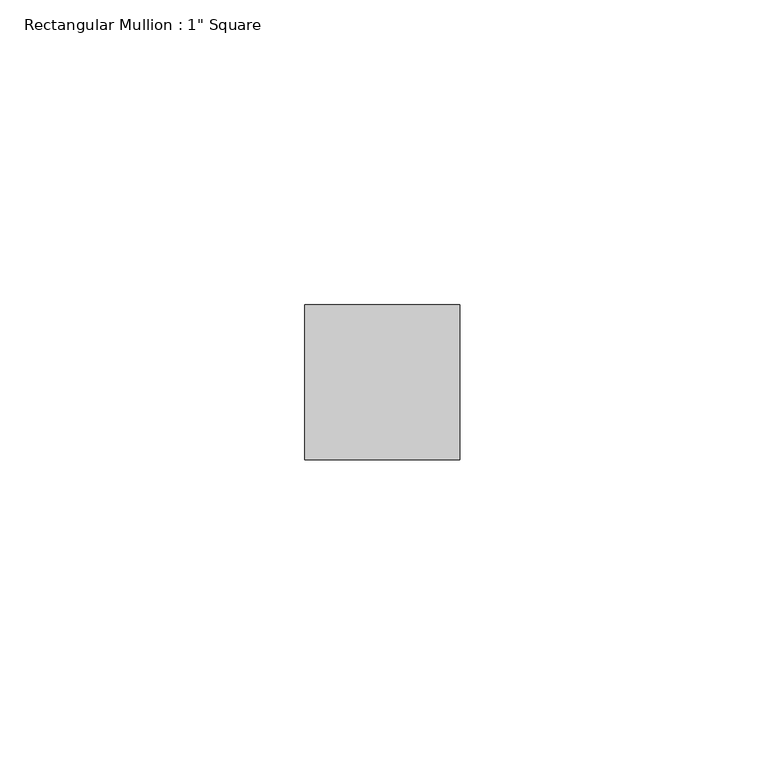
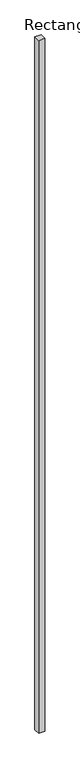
"""IFC4 building model written with IfcOpenShell, lengths in millimetres: member geometry."""

from ifc_helpers import new_model, si_unit, frame, origin, place, context, project, spatial, polyline, outline, extrude, source, transform, mapped, element, save


def member_4177733f(model_context):
    return source(origin(), model_context, "Body", "SweptSolid", [
        extrude(outline(polyline([(0.0, 12.7), (0.0, -12.7), (-25.4, -12.7), (-25.4, 12.7), (0.0, 12.7)])), frame((0.0, 0.0, -2979.266061), z_axis=(0.0, 0.0, 1.0), x_axis=(1.0, 0.0, 0.0)), (0.0, 0.0, 1.0), 2979.266061),
    ])


if __name__ == "__main__":
    model = new_model("IFC4")
    model_context = context("Model", 3, world=origin())
    ifc_project = project(units=[si_unit("LENGTHUNIT", "METRE", prefix="MILLI")], contexts=[model_context])
    site = spatial("IfcSite", under=ifc_project)
    building = spatial("IfcBuilding", under=site)
    placement = place(None, origin())
    member_shape = member_4177733f(model_context)
    element("IfcMember", 1, ObjectType="Rectangular Mullion : 1\" Square", at=placement, inside=building, context=model_context, shape_type="MappedRepresentation", body=[
        mapped(member_shape, transform((0.0, 0.0, 0.0), x_axis=(1.0, 0.0, 0.0), y_axis=(0.0, 1.0, 0.0), z_axis=(0.0, 0.0, 1.0))),
    ])
    save(model, "model.ifc")
